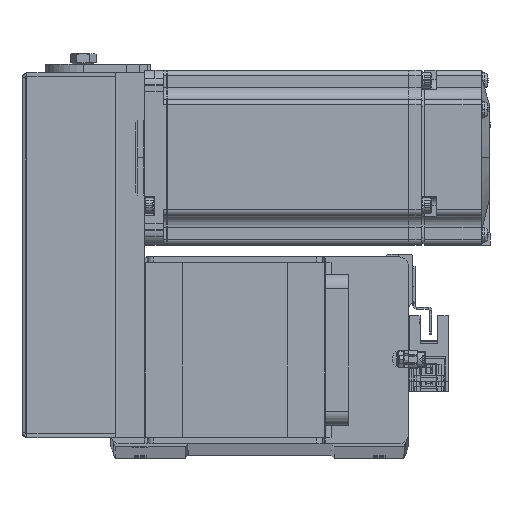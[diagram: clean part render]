
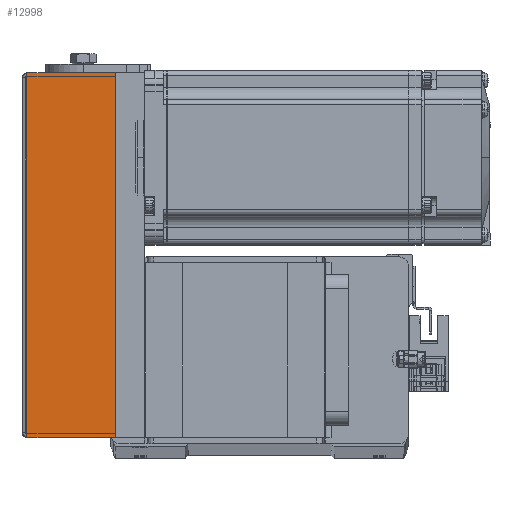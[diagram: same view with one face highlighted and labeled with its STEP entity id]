
A CAD part, top view. The second image highlights one B-rep face of the part: STEP entity #12998.
In plain terms, the highlighted planar face has unit normal (0, 0, 1).
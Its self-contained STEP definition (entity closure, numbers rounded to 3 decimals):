
#462 = CARTESIAN_POINT ( 'NONE',  ( 62.5, -30.3, 31. ) ) ;
#3956 = LINE ( 'NONE', #4492, #27507 ) ;
#4450 = DIRECTION ( 'NONE',  ( -1., 0., 0. ) ) ;
#4492 = CARTESIAN_POINT ( 'NONE',  ( 62.5, -30.3, 31. ) ) ;
#5965 = VECTOR ( 'NONE', #42199, 1000. ) ;
#6487 = EDGE_CURVE ( 'NONE', #13031, #39390, #29901, .T. ) ;
#9197 = AXIS2_PLACEMENT_3D ( 'NONE', #37530, #24427, #41075 ) ;
#9538 = ORIENTED_EDGE ( 'NONE', *, *, #50364, .F. ) ;
#12998 = ADVANCED_FACE ( 'NONE', ( #45448 ), #45994, .F. ) ;
#13031 = VERTEX_POINT ( 'NONE', #25491 ) ;
#16756 = DIRECTION ( 'NONE',  ( -1., 0., 0. ) ) ;
#18942 = EDGE_CURVE ( 'NONE', #22386, #27620, #3956, .T. ) ;
#21314 = LINE ( 'NONE', #46390, #45568 ) ;
#22386 = VERTEX_POINT ( 'NONE', #462 ) ;
#24427 = DIRECTION ( 'NONE',  ( 0., 0., -1. ) ) ;
#25491 = CARTESIAN_POINT ( 'NONE',  ( -62.5, -30.3, 31. ) ) ;
#26925 = CARTESIAN_POINT ( 'NONE',  ( 62.5, 0., 31. ) ) ;
#27507 = VECTOR ( 'NONE', #37451, 1000. ) ;
#27620 = VERTEX_POINT ( 'NONE', #26925 ) ;
#29901 = LINE ( 'NONE', #45478, #5965 ) ;
#30067 = CARTESIAN_POINT ( 'NONE',  ( 0., 0., 31. ) ) ;
#30912 = CARTESIAN_POINT ( 'NONE',  ( -62.5, 0., 31. ) ) ;
#37451 = DIRECTION ( 'NONE',  ( 0., 1., 0. ) ) ;
#37530 = CARTESIAN_POINT ( 'NONE',  ( 0., -30.8, 31. ) ) ;
#39390 = VERTEX_POINT ( 'NONE', #30912 ) ;
#40660 = EDGE_CURVE ( 'NONE', #27620, #39390, #41537, .T. ) ;
#41075 = DIRECTION ( 'NONE',  ( 0., -1., 0. ) ) ;
#41537 = LINE ( 'NONE', #30067, #47817 ) ;
#42199 = DIRECTION ( 'NONE',  ( 0., 1., 0. ) ) ;
#42662 = ORIENTED_EDGE ( 'NONE', *, *, #40660, .T. ) ;
#44011 = ORIENTED_EDGE ( 'NONE', *, *, #6487, .F. ) ;
#45448 = FACE_OUTER_BOUND ( 'NONE', #50516, .T. ) ;
#45478 = CARTESIAN_POINT ( 'NONE',  ( -62.5, -30.3, 31. ) ) ;
#45568 = VECTOR ( 'NONE', #4450, 1000. ) ;
#45602 = ORIENTED_EDGE ( 'NONE', *, *, #18942, .T. ) ;
#45994 = PLANE ( 'NONE',  #9197 ) ;
#46390 = CARTESIAN_POINT ( 'NONE',  ( -62.5, -30.3, 31. ) ) ;
#47817 = VECTOR ( 'NONE', #16756, 1000. ) ;
#50364 = EDGE_CURVE ( 'NONE', #22386, #13031, #21314, .T. ) ;
#50516 = EDGE_LOOP ( 'NONE', ( #9538, #45602, #42662, #44011 ) ) ;
